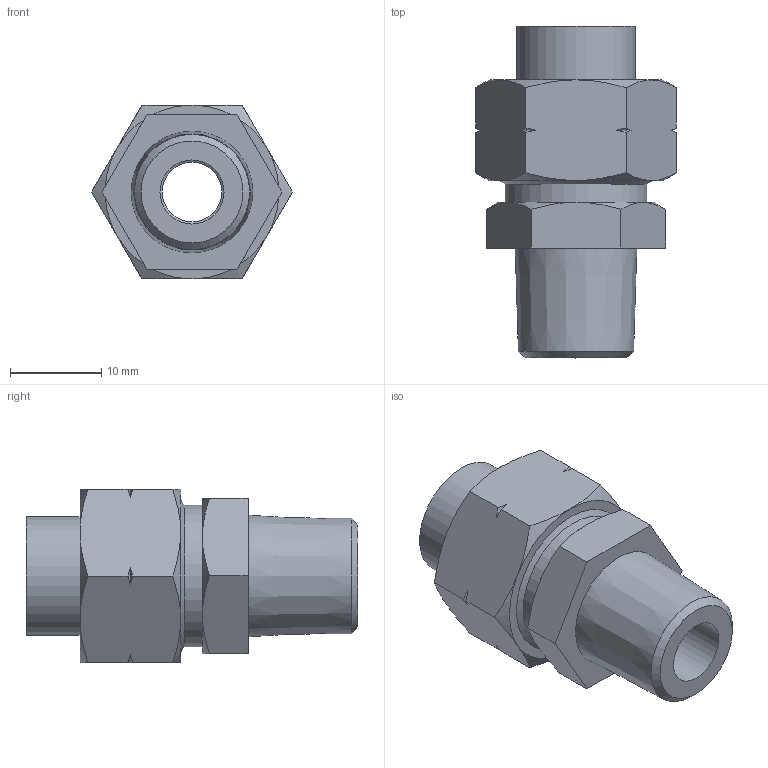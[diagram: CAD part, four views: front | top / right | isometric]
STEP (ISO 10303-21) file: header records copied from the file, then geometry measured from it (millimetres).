
FILE_DESCRIPTION((''),'2;1');
FILE_NAME('D:\INVENTOR\[New Inventor]\CDC Products 3D Ass''y\Two-Touch Fittings\Metric\CC\CC12-8--02.stp','2009-02-25T17:32:51',('Microsoft'),(''),'Autodesk Inventor 2008','Autodesk Inventor 2008','');
FILE_SCHEMA(('AUTOMOTIVE_DESIGN { 1 0 10303 214 1 1 1 1 }'));
Length unit declared in the file: millimetre
Products named in the file (1): CC12-8--02
Bounding box: 21.94 x 36.27 x 19 mm (x, y, z)
Volume: 4812.1 mm3; surface area: 4039.1 mm2
Topology: 1 solids, 1 shells, 61 faces, 136 edges, 83 vertices
Faces by surface type: cone 33, plane 20, cylinder 5, bspline 2, torus 1
Full cylindrical faces by diameter (mm): 6.5 x1, 7.7 x1, 12.2 x1, 13 x1, 15.5 x1
Entity records: 1608 total; most frequent: CARTESIAN_POINT 424, ORIENTED_EDGE 250, DIRECTION 226, EDGE_CURVE 125, AXIS2_PLACEMENT_3D 101, VERTEX_POINT 83, EDGE_LOOP 80, FACE_OUTER_BOUND 61
